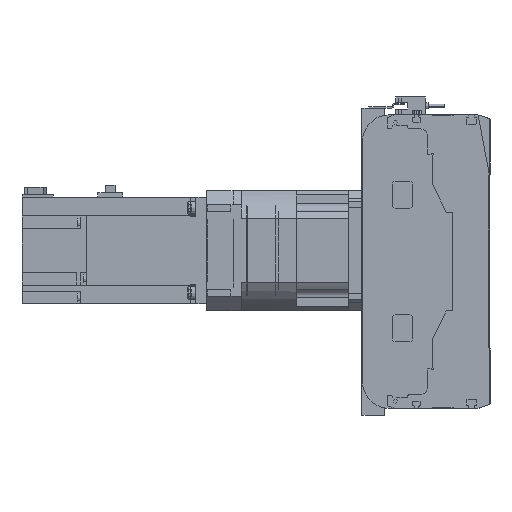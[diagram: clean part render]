
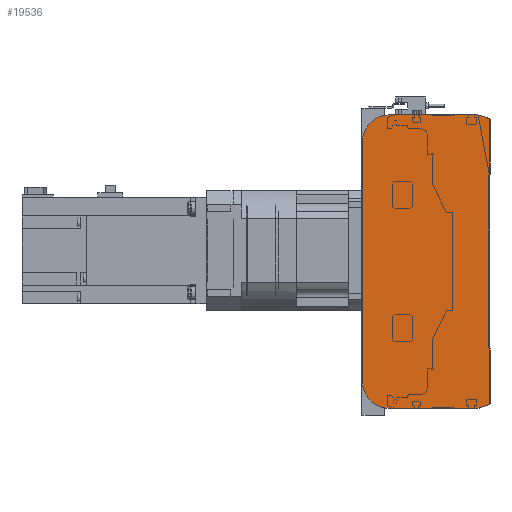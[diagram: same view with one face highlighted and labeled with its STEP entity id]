
A CAD part, left-side view. The second image highlights one B-rep face of the part: STEP entity #19536.
In plain terms, the highlighted planar face has unit normal (-1, 0, 0).
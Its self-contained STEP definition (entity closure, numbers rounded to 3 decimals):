
#1122=CIRCLE('',#21280,20.);
#1123=CIRCLE('',#21283,20.);
#4806=ORIENTED_EDGE('',*,*,#8456,.F.);
#4807=ORIENTED_EDGE('',*,*,#8498,.F.);
#4808=ORIENTED_EDGE('',*,*,#8496,.F.);
#4809=ORIENTED_EDGE('',*,*,#8494,.F.);
#4810=ORIENTED_EDGE('',*,*,#8483,.F.);
#4811=ORIENTED_EDGE('',*,*,#8474,.F.);
#4812=ORIENTED_EDGE('',*,*,#8470,.F.);
#4813=ORIENTED_EDGE('',*,*,#8467,.F.);
#8456=EDGE_CURVE('',#10625,#10626,#12379,.T.);
#8467=EDGE_CURVE('',#10626,#10633,#12390,.T.);
#8470=EDGE_CURVE('',#10633,#10635,#12393,.T.);
#8474=EDGE_CURVE('',#10635,#10636,#12397,.T.);
#8483=EDGE_CURVE('',#10636,#10642,#12406,.T.);
#8494=EDGE_CURVE('',#10642,#10649,#1122,.T.);
#8496=EDGE_CURVE('',#10649,#10650,#12418,.T.);
#8498=EDGE_CURVE('',#10650,#10625,#1123,.T.);
#10625=VERTEX_POINT('',#32402);
#10626=VERTEX_POINT('',#32404);
#10633=VERTEX_POINT('',#32423);
#10635=VERTEX_POINT('',#32429);
#10636=VERTEX_POINT('',#32435);
#10642=VERTEX_POINT('',#32451);
#10649=VERTEX_POINT('',#32470);
#10650=VERTEX_POINT('',#32474);
#12379=LINE('',#32403,#13972);
#12390=LINE('',#32422,#13983);
#12393=LINE('',#32428,#13986);
#12397=LINE('',#32434,#13990);
#12406=LINE('',#32450,#13999);
#12418=LINE('',#32473,#14011);
#13972=VECTOR('',#25735,1000.);
#13983=VECTOR('',#25748,1000.);
#13986=VECTOR('',#25753,1000.);
#13990=VECTOR('',#25759,1000.);
#13999=VECTOR('',#25770,1000.);
#14011=VECTOR('',#25788,1000.);
#15396=EDGE_LOOP('',(#4806,#4807,#4808,#4809,#4810,#4811,#4812,#4813));
#17286=FACE_BOUND('',#15396,.T.);
#18615=PLANE('',#21284);
#19536=ADVANCED_FACE('',(#17286),#18615,.F.);
#21280=AXIS2_PLACEMENT_3D('',#32469,#25783,#25784);
#21283=AXIS2_PLACEMENT_3D('',#32477,#25792,#25793);
#21284=AXIS2_PLACEMENT_3D('',#32478,#25794,#25795);
#25735=DIRECTION('',(0.,-1.,0.));
#25748=DIRECTION('',(0.,-0.945,-0.328));
#25753=DIRECTION('',(0.,0.,-1.));
#25759=DIRECTION('',(0.,0.945,-0.328));
#25770=DIRECTION('',(0.,1.,0.));
#25783=DIRECTION('',(1.,0.,0.));
#25784=DIRECTION('',(0.,0.,-1.));
#25788=DIRECTION('',(0.,0.,1.));
#25792=DIRECTION('',(1.,0.,0.));
#25793=DIRECTION('',(0.,0.,-1.));
#25794=DIRECTION('',(1.,0.,0.));
#25795=DIRECTION('',(0.,0.,-1.));
#32402=CARTESIAN_POINT('',(0.,75.5,110.));
#32403=CARTESIAN_POINT('',(0.,75.5,110.));
#32404=CARTESIAN_POINT('',(0.,9.,110.));
#32422=CARTESIAN_POINT('',(0.,9.,110.));
#32423=CARTESIAN_POINT('',(0.,0.5,107.05));
#32428=CARTESIAN_POINT('',(0.,0.5,107.05));
#32429=CARTESIAN_POINT('',(0.,0.5,-107.05));
#32434=CARTESIAN_POINT('',(0.,0.5,-107.05));
#32435=CARTESIAN_POINT('',(0.,9.,-110.));
#32450=CARTESIAN_POINT('',(0.,9.,-110.));
#32451=CARTESIAN_POINT('',(0.,75.5,-110.));
#32469=CARTESIAN_POINT('',(0.,75.5,-90.));
#32470=CARTESIAN_POINT('',(0.,95.5,-90.));
#32473=CARTESIAN_POINT('',(0.,95.5,-90.));
#32474=CARTESIAN_POINT('',(0.,95.5,90.));
#32477=CARTESIAN_POINT('',(0.,75.5,90.));
#32478=CARTESIAN_POINT('',(0.,75.5,-90.));
